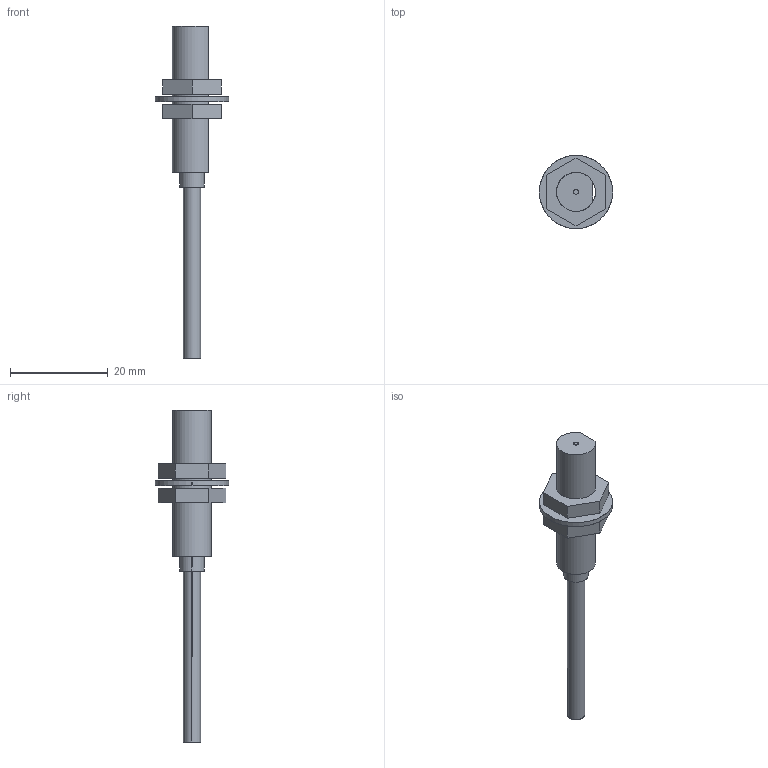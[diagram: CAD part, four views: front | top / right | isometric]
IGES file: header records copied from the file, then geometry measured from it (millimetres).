
Start section: SolidWorks IGES FILE using analytic representation for surfaces
Global section: file name: \\intra-srv04\開発データ\CAD_Data\CAD委員会\3D電子ｶﾀﾛｸﾞ\製品カタログ（新）\0_IGES\GX-8M.IGS,41HSolidWorks 2004; native system: by SolidWorks Corporation; preprocessor: Version 5.3; author: yk0651; date: 050907.101847; units: millimetre
Bounding box: 15 x 15 x 68 mm (x, y, z)
Surface area: 2300.9 mm2 (no closed solid volume)
Topology: 0 solids, 0 shells, 43 faces, 672 edges, 672 vertices
Faces by surface type: bspline 27, revolution 16
